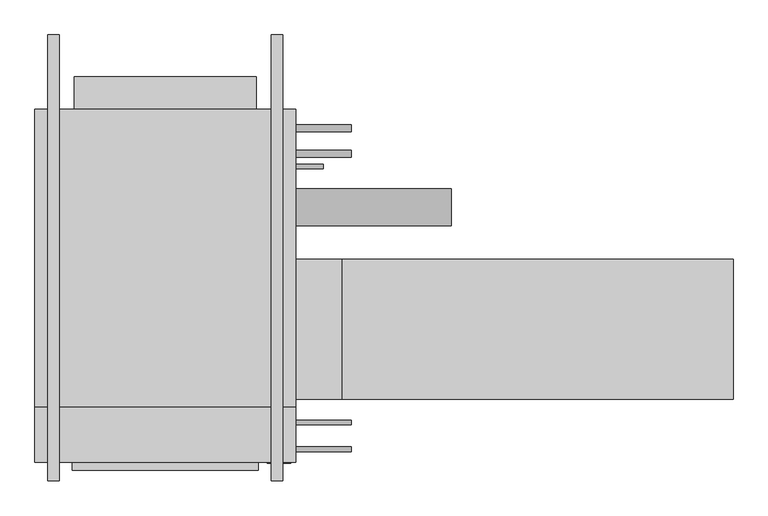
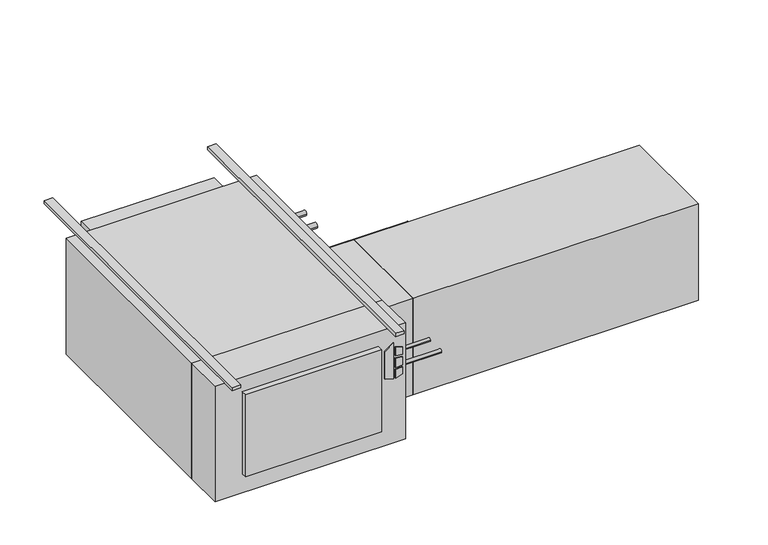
"""IFC4 building model written with IfcOpenShell, lengths in millimetres: proxy geometry."""

from ifc_helpers import new_model, si_unit, point, frame, frame_2d, origin, origin_with_axes, place, context, project, spatial, polyline, circle_curve, trimmed, segment, composite_curve, outline, extrude, source, transform, mapped, element, save


def mechanical_equipment_aca808ea(model_context):
    return source(origin(), model_context, "Body", "SweptSolid", [
        extrude(outline(polyline([(-193.2519297, 430.2868862), (-203.2, 462.4602728), (-61.0290756, 462.4602728), (-84.0510817, 430.2868862), (-193.2519297, 430.2868862)])), frame((0.0, -797.052, 0.0), z_axis=(0.0, 1.0, 0.0), x_axis=(0.0, 0.0, 1.0)), (0.0, 0.0, 1.0), 3.175),
        extrude(outline(polyline([(-114.2526443, 469.2186058), (-117.4550368, 495.3), (-88.2261958, 495.3), (-80.1617807, 469.2186058), (-114.2526443, 469.2186058)])), frame((0.0, -797.052, 0.0), z_axis=(0.0, 1.0, 0.0), x_axis=(0.0, 0.0, 1.0)), (0.0, 0.0, 1.0), 3.175),
        extrude(outline(polyline([(-166.1161712, 495.3), (-169.7816721, 469.2186058), (-203.2, 469.2186058), (-194.5657628, 495.3), (-166.1161712, 495.3)])), frame((0.0, -797.052, 0.0), z_axis=(0.0, 1.0, 0.0), x_axis=(0.0, 0.0, 1.0)), (0.0, 0.0, 1.0), 3.175),
        extrude(outline(polyline([(-126.8010097, 495.3), (-124.5191834, 469.2186058), (-160.4567319, 469.2186058), (-157.7154669, 495.3), (-126.8010097, 495.3)])), frame((0.0, -797.052, 0.0), z_axis=(0.0, 1.0, 0.0), x_axis=(0.0, 0.0, 1.0)), (0.0, 0.0, 1.0), 3.175),
        extrude(outline(polyline([(508.0, -793.877), (-203.2, -793.877), (-203.2, -644.525), (508.0, -644.525), (508.0, -793.877)])), frame((0.0, 0.0, -457.2), z_axis=(0.0, 0.0, 1.0), x_axis=(1.0, 0.0, 0.0)), (0.0, 0.0, 1.0), 457.2),
        extrude(outline(polyline([(406.4, -816.229), (-101.6, -816.229), (-101.6, -793.877), (406.4, -793.877), (406.4, -816.229)])), frame((0.0, 0.0, -381.0), z_axis=(0.0, 0.0, 1.0), x_axis=(1.0, 0.0, 0.0)), (0.0, 0.0, 1.0), 323.85),
        extrude(outline(polyline([(1701.8, -241.3), (1701.8, -622.3), (635.0, -622.3), (635.0, -241.3), (1701.8, -241.3)])), frame((0.0, 0.0, -431.8), z_axis=(0.0, 0.0, 1.0), x_axis=(1.0, 0.0, 0.0)), (0.0, 0.0, 1.0), 381.0),
        extrude(outline(polyline([(635.0, -241.3), (635.0, -622.3), (508.0, -622.3), (508.0, -241.3), (635.0, -241.3)])), frame((0.0, 0.0, -431.8), z_axis=(0.0, 0.0, 1.0), x_axis=(1.0, 0.0, 0.0)), (0.0, 0.0, 1.0), 381.0),
        extrude(outline(composite_curve([segment(trimmed(circle_curve(frame_2d((-758.825, -184.15)), 6.35), [point((-752.475, -184.15))], [point((-765.175, -184.15))], False, "CARTESIAN"), True, "CONTINUOUS"), segment(trimmed(circle_curve(frame_2d((-758.825, -184.15)), 6.35), [point((-765.175, -184.15))], [point((-752.475, -184.15))], False, "CARTESIAN"), True, "CONTINUOUS")], self_intersect=False)), frame((508.0, 0.0, 0.0), z_axis=(1.0, 0.0, 0.0), x_axis=(0.0, 1.0, 0.0)), (0.0, 0.0, 1.0), 152.4),
        extrude(outline(composite_curve([segment(trimmed(circle_curve(frame_2d((-685.8, -184.15)), 6.35), [point((-679.45, -184.15))], [point((-692.15, -184.15))], False, "CARTESIAN"), True, "CONTINUOUS"), segment(trimmed(circle_curve(frame_2d((-685.8, -184.15)), 6.35), [point((-692.15, -184.15))], [point((-679.45, -184.15))], False, "CARTESIAN"), True, "CONTINUOUS")], self_intersect=False)), frame((508.0, 0.0, 0.0), z_axis=(1.0, 0.0, 0.0), x_axis=(0.0, 1.0, 0.0)), (0.0, 0.0, 1.0), 152.4),
        extrude(outline(composite_curve([segment(trimmed(circle_curve(frame_2d((117.475, -171.45)), 9.525), [point((127.0, -171.45))], [point((107.95, -171.45))], False, "CARTESIAN"), True, "CONTINUOUS"), segment(trimmed(circle_curve(frame_2d((117.475, -171.45)), 9.525), [point((107.95, -171.45))], [point((127.0, -171.45))], False, "CARTESIAN"), True, "CONTINUOUS")], self_intersect=False)), frame((508.0, 0.0, 0.0), z_axis=(1.0, 0.0, 0.0), x_axis=(0.0, 1.0, 0.0)), (0.0, 0.0, 1.0), 152.4),
        extrude(outline(composite_curve([segment(trimmed(circle_curve(frame_2d((47.625, -177.8)), 9.525), [point((57.15, -177.8))], [point((38.1, -177.8))], False, "CARTESIAN"), True, "CONTINUOUS"), segment(trimmed(circle_curve(frame_2d((47.625, -177.8)), 9.525), [point((38.1, -177.8))], [point((57.15, -177.8))], False, "CARTESIAN"), True, "CONTINUOUS")], self_intersect=False)), frame((508.0, 0.0, 0.0), z_axis=(1.0, 0.0, 0.0), x_axis=(0.0, 1.0, 0.0)), (0.0, 0.0, 1.0), 152.4),
        extrude(outline(composite_curve([segment(trimmed(circle_curve(frame_2d((-98.4896516, -228.6360165)), 50.8), [point((-47.6896516, -228.6360165))], [point((-149.2896516, -228.6360165))], False, "CARTESIAN"), True, "CONTINUOUS"), segment(trimmed(circle_curve(frame_2d((-98.4896516, -228.6360165)), 50.8), [point((-149.2896516, -228.6360165))], [point((-47.6896516, -228.6360165))], False, "CARTESIAN"), True, "CONTINUOUS")], self_intersect=False)), frame((508.0, 0.0, 0.0), z_axis=(1.0, 0.0, 0.0), x_axis=(0.0, 1.0, 0.0)), (0.0, 0.0, 1.0), 425.45),
        extrude(outline(composite_curve([segment(trimmed(circle_curve(frame_2d((12.7, -409.575)), 6.35), [point((19.05, -409.575))], [point((6.35, -409.575))], False, "CARTESIAN"), True, "CONTINUOUS"), segment(trimmed(circle_curve(frame_2d((12.7, -409.575)), 6.35), [point((6.35, -409.575))], [point((19.05, -409.575))], False, "CARTESIAN"), True, "CONTINUOUS")], self_intersect=False)), frame((508.0, 0.0, 0.0), z_axis=(1.0, 0.0, 0.0), x_axis=(0.0, 1.0, 0.0)), (0.0, 0.0, 1.0), 76.2),
        extrude(outline(polyline([(508.0, 168.275), (508.0, -644.525), (-203.2, -644.525), (-203.2, 168.275), (508.0, 168.275)])), frame((0.0, 0.0, -457.2), z_axis=(0.0, 0.0, 1.0), x_axis=(1.0, 0.0, 0.0)), (0.0, 0.0, 1.0), 457.2),
        extrude(outline(polyline([(-95.25, 257.175), (400.05, 257.175), (400.05, 168.275), (-95.25, 168.275), (-95.25, 257.175)])), frame((0.0, 0.0, -381.0), z_axis=(0.0, 0.0, 1.0), x_axis=(1.0, 0.0, 0.0)), (0.0, 0.0, 1.0), 355.6),
        extrude(outline(polyline([(-136.525, 371.475), (-136.525, -844.677), (-168.275, -844.677), (-168.275, 371.475), (-136.525, 371.475)])), origin_with_axes(), (0.0, 0.0, 1.0), 12.7),
        extrude(outline(polyline([(473.075, 371.475), (473.075, -844.677), (441.325, -844.677), (441.325, 371.475), (473.075, 371.475)])), origin_with_axes(), (0.0, 0.0, 1.0), 12.7),
    ])


if __name__ == "__main__":
    model = new_model("IFC4")
    model_context = context("Model", 3, world=origin())
    ifc_project = project(units=[si_unit("LENGTHUNIT", "METRE", prefix="MILLI")], contexts=[model_context])
    site = spatial("IfcSite", under=ifc_project)
    building = spatial("IfcBuilding", under=site)
    placement = place(None, origin())
    mechanical_equipment_shape = mechanical_equipment_aca808ea(model_context)
    element("IfcBuildingElementProxy", 1, Name="High_Capacity_Horizontal_Cabinet_Fan_Coil_Unit_-_HTY_-_IEC_-_4-Pipe_WO-Attenuator_RH Side_2022 : Size 08 - 115v/60Hz/1Ph - 4/1 Coil - 4\" AirIn", ObjectType="High_Capacity_Horizontal_Cabinet_Fan_Coil_Unit_-_HTY_-_IEC_-_4-Pipe_WO-Attenuator_RH Side_2022 : Size 08 - 115v/60Hz/1Ph - 4/1 Coil - 4\" AirIn", at=placement, inside=building, context=model_context, shape_type="MappedRepresentation", body=[
        mapped(mechanical_equipment_shape, transform((0.0, 0.0, 0.0), x_axis=(1.0, 0.0, 0.0), y_axis=(0.0, 1.0, 0.0), z_axis=(0.0, 0.0, 1.0))),
    ])
    save(model, "model.ifc")
